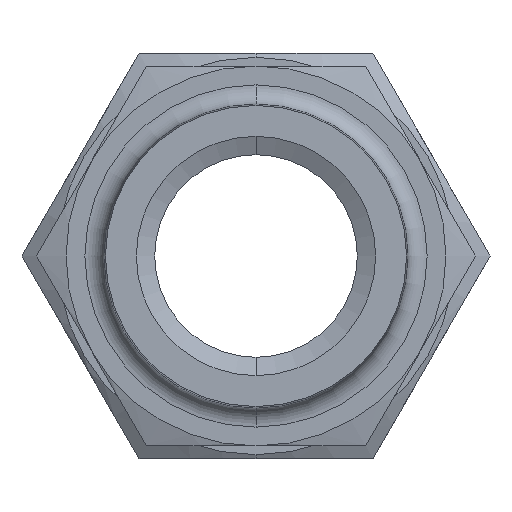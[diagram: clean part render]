
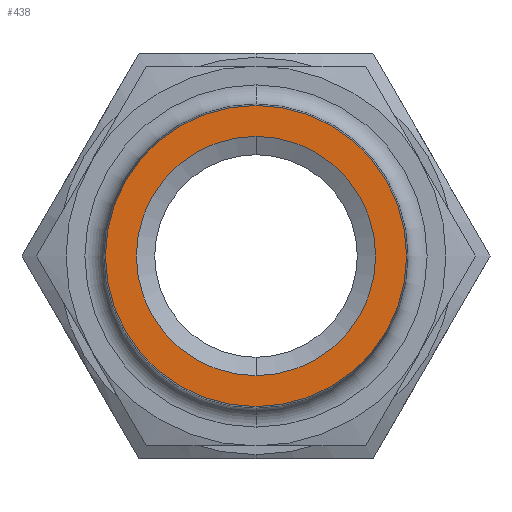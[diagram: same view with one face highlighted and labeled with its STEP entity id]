
A CAD part, left-side view. The second image highlights one B-rep face of the part: STEP entity #438.
In plain terms, the highlighted planar face has unit normal (-1, 0, 0).
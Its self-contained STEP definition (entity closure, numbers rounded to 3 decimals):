
#73 = VERTEX_POINT ( 'NONE', #647 ) ;
#218 = VERTEX_POINT ( 'NONE', #1184 ) ;
#219 = VERTEX_POINT ( 'NONE', #1183 ) ;
#231 = EDGE_CURVE ( 'NONE', #218, #236, #1106, .T. ) ;
#235 = EDGE_CURVE ( 'NONE', #73, #219, #1094, .T. ) ;
#236 = VERTEX_POINT ( 'NONE', #1089 ) ;
#340 = ORIENTED_EDGE ( 'NONE', *, *, #341, .T. ) ;
#341 = EDGE_CURVE ( 'NONE', #236, #218, #1409, .T. ) ;
#342 = ORIENTED_EDGE ( 'NONE', *, *, #231, .T. ) ;
#343 = EDGE_LOOP ( 'NONE', ( #344, #345 ) ) ;
#344 = ORIENTED_EDGE ( 'NONE', *, *, #747, .F. ) ;
#345 = ORIENTED_EDGE ( 'NONE', *, *, #235, .F. ) ;
#438 = ADVANCED_FACE ( 'NONE', ( #1683, #1682 ), #1681, .T. ) ;
#647 = CARTESIAN_POINT ( 'NONE',  ( -25.2, 0., -7.5 ) ) ;
#747 = EDGE_CURVE ( 'NONE', #219, #73, #1756, .T. ) ;
#748 = EDGE_LOOP ( 'NONE', ( #340, #342 ) ) ;
#1089 = CARTESIAN_POINT ( 'NONE',  ( -25.2, 0., 9.434 ) ) ;
#1090 = DIRECTION ( 'NONE',  ( 0., 0., 1. ) ) ;
#1091 = DIRECTION ( 'NONE',  ( -1., 0., 0. ) ) ;
#1092 = CARTESIAN_POINT ( 'NONE',  ( -25.2, 0., 0. ) ) ;
#1093 = AXIS2_PLACEMENT_3D ( 'NONE', #1092, #1091, #1090 ) ;
#1094 = CIRCLE ( 'NONE', #1093, 7.5 ) ;
#1096 = DIRECTION ( 'NONE',  ( 0., 0., 1. ) ) ;
#1097 = DIRECTION ( 'NONE',  ( -1., 0., 0. ) ) ;
#1098 = CARTESIAN_POINT ( 'NONE',  ( -25.2, 0., 0. ) ) ;
#1099 = AXIS2_PLACEMENT_3D ( 'NONE', #1098, #1097, #1096 ) ;
#1106 = CIRCLE ( 'NONE', #1099, 9.434 ) ;
#1183 = CARTESIAN_POINT ( 'NONE',  ( -25.2, 0., 7.5 ) ) ;
#1184 = CARTESIAN_POINT ( 'NONE',  ( -25.2, 0., -9.434 ) ) ;
#1398 = DIRECTION ( 'NONE',  ( 0., 0., 1. ) ) ;
#1399 = DIRECTION ( 'NONE',  ( -1., 0., 0. ) ) ;
#1400 = CARTESIAN_POINT ( 'NONE',  ( -25.2, 0., 0. ) ) ;
#1401 = AXIS2_PLACEMENT_3D ( 'NONE', #1400, #1399, #1398 ) ;
#1409 = CIRCLE ( 'NONE', #1401, 9.434 ) ;
#1676 = DIRECTION ( 'NONE',  ( 0., 0., 1. ) ) ;
#1677 = DIRECTION ( 'NONE',  ( -1., 0., 0. ) ) ;
#1678 = AXIS2_PLACEMENT_3D ( 'NONE', #1680, #1677, #1676 ) ;
#1680 = CARTESIAN_POINT ( 'NONE',  ( -25.2, 0., 0. ) ) ;
#1681 = PLANE ( 'NONE',  #1678 ) ;
#1682 = FACE_BOUND ( 'NONE', #343, .T. ) ;
#1683 = FACE_OUTER_BOUND ( 'NONE', #748, .T. ) ;
#1752 = DIRECTION ( 'NONE',  ( 0., 0., 1. ) ) ;
#1753 = DIRECTION ( 'NONE',  ( -1., 0., 0. ) ) ;
#1754 = CARTESIAN_POINT ( 'NONE',  ( -25.2, 0., 0. ) ) ;
#1755 = AXIS2_PLACEMENT_3D ( 'NONE', #1754, #1753, #1752 ) ;
#1756 = CIRCLE ( 'NONE', #1755, 7.5 ) ;
